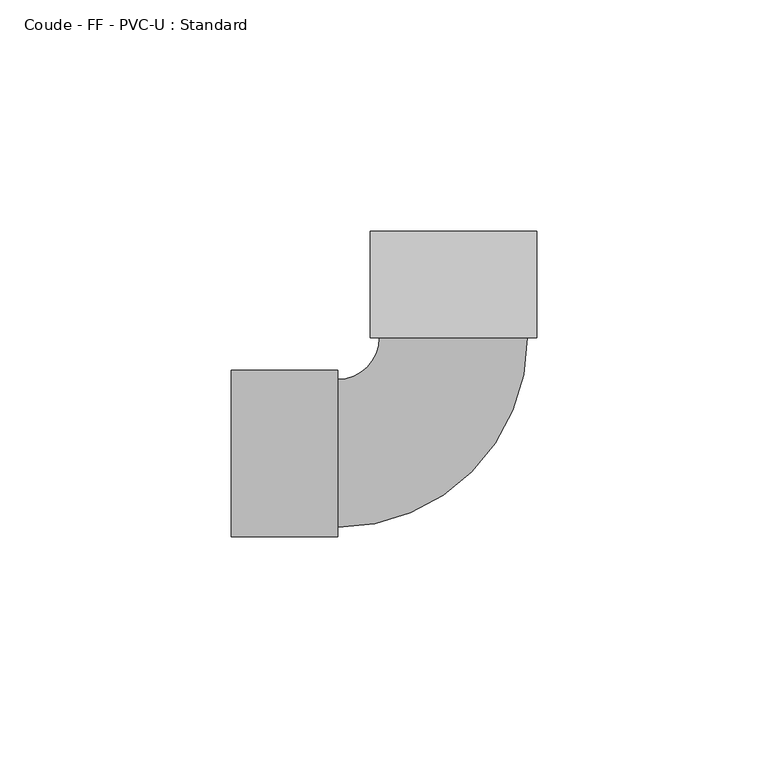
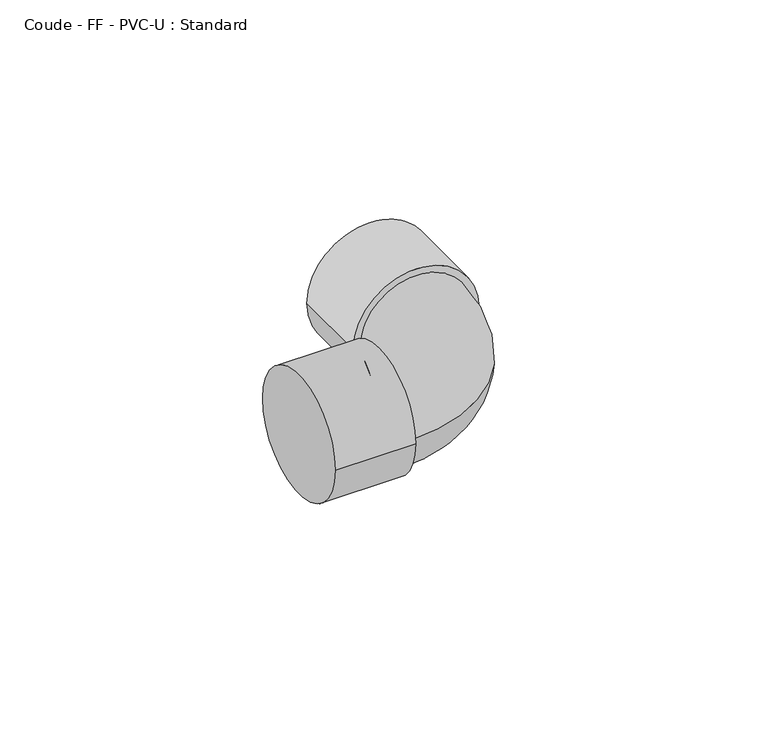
"""IFC4 building model written with IfcOpenShell, lengths in millimetres: pipe fitting geometry, Coude - FF - PVC-U : Standard."""

from ifc_helpers import new_model, si_unit, point, frame, origin, place, context, project, spatial, circle_curve, ellipse_curve, trimmed, source, transform, mapped, element, save
from ifc_brep_helpers import plane_surface, cylinder_surface, revolved_surface, advanced_brep


def coude_ff_pvc_u_standard_c64fbb7e(model_context):
    return source(origin(), model_context, "Body", "AdvancedBrep", [
        advanced_brep(
        [(-48.0, -18.0, 0.0), (-48.0, 18.0, 0.0), (-25.0, -18.0, 0.0), (-25.0, 18.0, 0.0), (-25.0, -16.0, 0.0), (-25.0, 16.0, 0.0), (-15.9951362, 25.0031122, 0.0), (16.0048632, 24.9968869, 0.0), (18.0048631, 24.9964978, 0.0), (-17.9951362, 25.0035012, 0.0), (18.0093375, 47.9964974, 0.0), (-17.9906618, 48.0035008, 0.0)],
        [
            (0, 1, circle_curve(frame((-48.0, 0.0, 0.0), z_axis=(-1.0, 0.0, 0.0), x_axis=(0.0, 1.0, 0.0)), 18.0)),
            (1, 0, circle_curve(frame((-48.0, 0.0, 0.0), z_axis=(-1.0, 0.0, 0.0), x_axis=(0.0, 1.0, 0.0)), 18.0)),
            (2, 3, circle_curve(frame((-25.0, 0.0, 0.0), z_axis=(1.0, 0.0, 0.0), x_axis=(0.0, 1.0, 0.0)), 18.0)),
            (3, 2, circle_curve(frame((-25.0, 0.0, 0.0), z_axis=(1.0, 0.0, 0.0), x_axis=(0.0, 1.0, 0.0)), 18.0)),
            (4, 5, circle_curve(frame((-25.0, 0.0, 0.0), z_axis=(-1.0, 0.0, 0.0), x_axis=(0.0, 1.0, 0.0)), 16.0)),
            (5, 4, circle_curve(frame((-25.0, 0.0, 0.0), z_axis=(-1.0, 0.0, 0.0), x_axis=(0.0, 1.0, 0.0)), 16.0)),
            (0, 2),
            (3, 1),
            (6, 5, circle_curve(frame((-25.0, 25.0048639, 0.0), z_axis=(0.0, 0.0, -1.0), x_axis=(0.0, -1.0, 0.0)), 9.0048639)),
            (4, 7, circle_curve(frame((-25.0, 25.0048639, 0.0), z_axis=(0.0, 0.0, 1.0), x_axis=(0.0, -1.0, 0.0)), 41.0048639)),
            (7, 6, circle_curve(frame((0.0048635, 24.9999995, 0.0), z_axis=(-0.0001945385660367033, -0.999999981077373, 0.0), x_axis=(-0.999999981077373, 0.0001945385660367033, 0.0)), 16.0)),
            (6, 7, circle_curve(frame((0.0048635, 24.9999995, 0.0), z_axis=(-0.0001945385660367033, -0.999999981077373, 0.0), x_axis=(-0.999999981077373, 0.0001945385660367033, 0.0)), 16.0)),
            (8, 9, circle_curve(frame((0.0048635, 24.9999995, 0.0), z_axis=(-0.0001945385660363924, -0.9999999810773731, 0.0), x_axis=(-0.9999999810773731, 0.0001945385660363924, 0.0)), 18.0)),
            (9, 8, circle_curve(frame((0.0048635, 24.9999995, 0.0), z_axis=(-0.0001945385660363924, -0.9999999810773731, 0.0), x_axis=(-0.9999999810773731, 0.0001945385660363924, 0.0)), 18.0)),
            (10, 11, circle_curve(frame((0.0093379, 47.9999991, 0.0), z_axis=(0.0001945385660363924, 0.9999999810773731, 0.0), x_axis=(-0.9999999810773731, 0.0001945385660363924, 0.0)), 18.0)),
            (11, 10, circle_curve(frame((0.0093379, 47.9999991, 0.0), z_axis=(0.0001945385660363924, 0.9999999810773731, 0.0), x_axis=(-0.9999999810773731, 0.0001945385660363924, 0.0)), 18.0)),
            (8, 10),
            (11, 9),
        ],
        [
            plane_surface(frame((-48.0, 0.0, 0.0), z_axis=(-1.0, 0.0, 0.0), x_axis=(0.0, 0.0, 1.0))),
            plane_surface(frame((-25.0, 0.0, 0.0), z_axis=(1.0, 0.0, 0.0), x_axis=(0.0, 0.0, 1.0))),
            cylinder_surface(frame((-48.0, 0.0, 0.0), z_axis=(-1.0, 0.0, 0.0), x_axis=(0.0, 1.0, 0.0)), 18.0),
            revolved_surface(trimmed(ellipse_curve(frame((-25.0, 0.0, 0.0), z_axis=(-1.0, 0.0, 0.0), x_axis=(0.0, 1.0, 0.0)), 16.0, 16.0), [point((-25.0, -16.0, 0.0))], [point((-25.0, 16.0, 0.0))], True, "CARTESIAN"), (-25.0, 25.0048639, 0.0), (0.0, 0.0, 1.0)),
            revolved_surface(trimmed(ellipse_curve(frame((-25.0, 0.0, 0.0), z_axis=(-1.0, 0.0, 0.0), x_axis=(0.0, 1.0, 0.0)), 16.0, 16.0), [point((-25.0, 16.0, 0.0))], [point((-25.0, -16.0, 0.0))], True, "CARTESIAN"), (-25.0, 25.0048639, 0.0), (0.0, 0.0, 1.0)),
            plane_surface(frame((0.0048635, 24.9999995, 0.0), z_axis=(-0.00019453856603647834, -0.9999999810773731, 0.0), x_axis=(0.0, 0.0, 1.0))),
            plane_surface(frame((0.0093379, 47.9999991, 0.0), z_axis=(0.00019453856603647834, 0.9999999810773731, 0.0), x_axis=(0.0, 0.0, 1.0))),
            cylinder_surface(frame((0.0048635, 24.9999995, 0.0), z_axis=(-0.0001945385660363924, -0.9999999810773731, 0.0), x_axis=(-0.9999999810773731, 0.0001945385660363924, 0.0)), 18.0),
        ],
        [
            (0, [[1, 2]]),
            (1, [[3, 4], [5, 6]]),
            (2, [[-1, 7, -4, 8]]),
            (2, [[-2, -8, -3, -7]]),
            (3, [[9, -5, 10, 11]]),
            (4, [[-9, 12, -10, -6]]),
            (5, [[13, 14], [-11, -12]]),
            (6, [[15, 16]]),
            (7, [[-13, 17, -16, 18]]),
            (7, [[-14, -18, -15, -17]]),
        ],
    ),
    ])


if __name__ == "__main__":
    model = new_model("IFC4")
    model_context = context("Model", 3, world=origin())
    ifc_project = project(units=[si_unit("LENGTHUNIT", "METRE", prefix="MILLI")], contexts=[model_context])
    site = spatial("IfcSite", under=ifc_project)
    building = spatial("IfcBuilding", under=site)
    placement = place(None, origin())
    coude_ff_pvc_u_standard_shape = coude_ff_pvc_u_standard_c64fbb7e(model_context)
    element("IfcPipeFitting", 1, ObjectType="Coude - FF - PVC-U : Standard", at=placement, inside=building, context=model_context, shape_type="MappedRepresentation", body=[
        mapped(coude_ff_pvc_u_standard_shape, transform((0.0, 0.0, 0.0), x_axis=(1.0, 0.0, 0.0), y_axis=(0.0, 1.0, 0.0), z_axis=(0.0, 0.0, 1.0))),
    ])
    save(model, "model.ifc")
